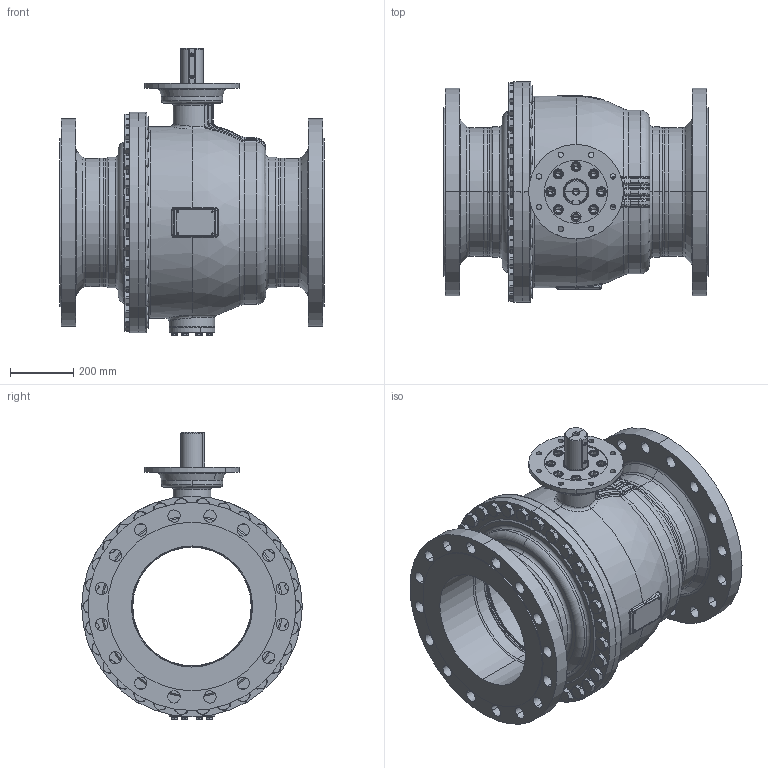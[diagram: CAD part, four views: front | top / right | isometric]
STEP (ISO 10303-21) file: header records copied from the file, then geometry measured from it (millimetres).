
FILE_DESCRIPTION((''),'2;1');
FILE_NAME('KHI-F_400_PN040-F25_P_SW0001','2026-02-05T16:02:50',('fischerkl'),('KLINGER'),'CREO PARAMETRIC BY PTC INC, 2023014','CREO PARAMETRIC BY PTC INC, 2023014','');
FILE_SCHEMA(('CONFIG_CONTROL_DESIGN'));
Products named in the file (1): KHI-F_400_PN040-F25_P_SW0001
Bounding box: 838 x 700 x 911.3 mm (x, y, z)
Volume: 65558418.9 mm3; surface area: 7391271 mm2
Topology: 1 solids, 4 shells, 3573 faces, 9006 edges, 5628 vertices
Faces by surface type: plane 1771, cylinder 857, cone 504, torus 311, bspline 99, sphere 31
Entity records: 153117 total; most frequent: CARTESIAN_POINT 68040, ORIENTED_EDGE 17960, DIRECTION 17616, EDGE_CURVE 8980, AXIS2_PLACEMENT_3D 6762, VERTEX_POINT 5628, VECTOR 4092, LINE 4092
